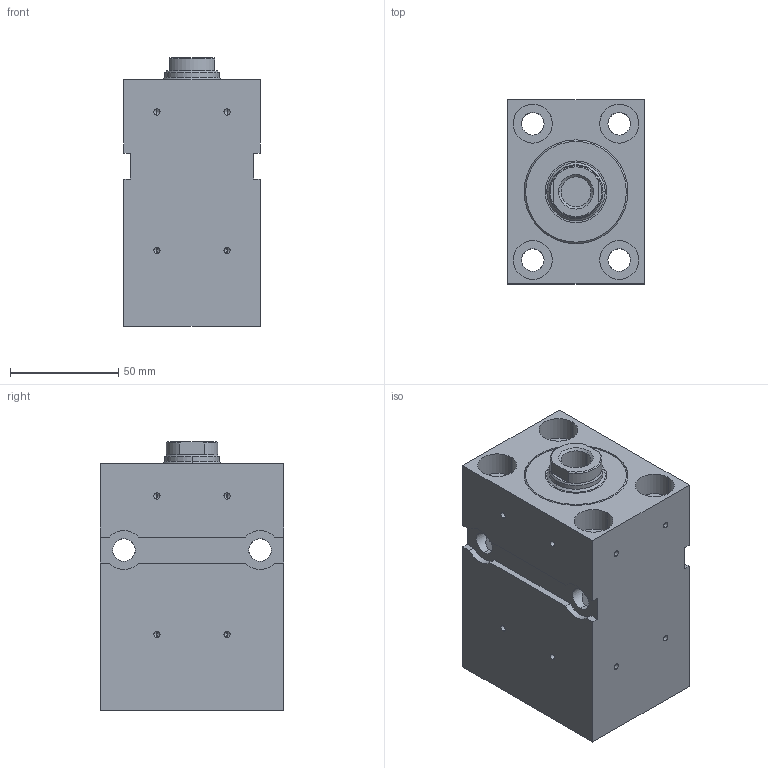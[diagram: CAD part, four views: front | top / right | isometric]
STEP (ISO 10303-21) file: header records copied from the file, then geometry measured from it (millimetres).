
FILE_DESCRIPTION (( 'STEP AP203' ), '1' );
FILE_NAME ('BZ_500.40_25.78.201.060 PP.KBC40__DH_0_.STEP', '2022-05-27T10:23:34', ( '' ), ( '' ), 'SwSTEP 2.0', 'SolidWorks 2020', '' );
FILE_SCHEMA (( 'CONFIG_CONTROL_DESIGN' ));
Length unit declared in the file: millimetre
Products named in the file (6): _Dichtungssatz f. BZ_RZ_FZ.40_25.xx.201.60 Artikelnr._ 013543(0)^BZ_500.40_25.78.201.060 PP.KBC40__DH_0_(2)_BZ_500.40_25.78.201.060 PP.KBC40__DH_0_; _Gehaeuse f. BZ500.40_25.Fehler in IDBF.201.60Fehler in IDNT00(1340frei278000))7^BZ_500.40_25.78.201.060 PP.KBC40__DH_0_(2)_BZ_500.40_25.78.201.060 PP.KBC40__DH_0_; BZ_500.40_25.78.201.060 PP.KBC40__DH_0_(2)^BZ_500.40_25.78.201.060 PP.KBC40__DH_0_; _Kolbenstange komplett f. BZ_RZ_FZ.40_25.xx.201.60(0_11 1 16 2 0 0 10 25 0 0 0)0^BZ_500.40_25.78.201.060 PP.KBC40__DH_0_(2)_BZ_500.40_25.78.201.060 PP.KBC40__DH_0_; BZ_500.40_25.78.201.060 PP.KBC40__DH_0_; _Verschraubung komplett mit Dichtung f. BZ_RZ_FZ.40_25.201, Art.-Nr._ 041752(201)^BZ_500.40_25.78.201.060 PP.KBC40__DH_0_(2)_BZ_500.40_25.78.201.060 PP.KBC40__DH_0_
Assembly tree (5 placements, depth 3):
  BZ_500.40_25.78.201.060 PP.KBC40__DH_0_
    BZ_500.40_25.78.201.060 PP.KBC40__DH_0_(2)^BZ_500.40_25.78.201.060 PP.KBC40__DH_0_
      _Gehaeuse f. BZ500.40_25.Fehler in IDBF.201.60Fehler in IDNT00(1340frei278000))7^BZ_500.40_25.78.201.060 PP.KBC40__DH_0_(2)_BZ_500.40_25.78.201.060 PP.KBC40__DH_0_
      _Verschraubung komplett mit Dichtung f. BZ_RZ_FZ.40_25.201, Art.-Nr._ 041752(201)^BZ_500.40_25.78.201.060 PP.KBC40__DH_0_(2)_BZ_500.40_25.78.201.060 PP.KBC40__DH_0_
      _Dichtungssatz f. BZ_RZ_FZ.40_25.xx.201.60 Artikelnr._ 013543(0)^BZ_500.40_25.78.201.060 PP.KBC40__DH_0_(2)_BZ_500.40_25.78.201.060 PP.KBC40__DH_0_
      _Kolbenstange komplett f. BZ_RZ_FZ.40_25.xx.201.60(0_11 1 16 2 0 0 10 25 0 0 0)0^BZ_500.40_25.78.201.060 PP.KBC40__DH_0_(2)_BZ_500.40_25.78.201.060 PP.KBC40__DH_0_
Bounding box: 63 x 85 x 124 mm (x, y, z)
Volume: 491941.5 mm3; surface area: 103210.8 mm2
Topology: 4 solids, 4 shells, 207 faces, 512 edges, 308 vertices
Faces by surface type: cylinder 117, plane 52, cone 38
Entity records: 6836 total; most frequent: CARTESIAN_POINT 1307, DIRECTION 1097, ORIENTED_EDGE 976, EDGE_CURVE 488, AXIS2_PLACEMENT_3D 435, VERTEX_POINT 308, EDGE_LOOP 254, VECTOR 227
